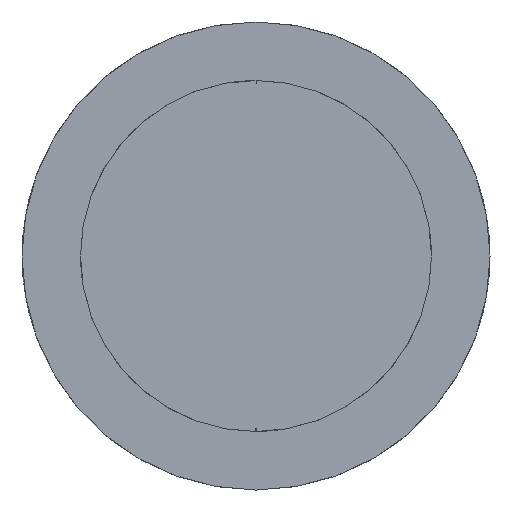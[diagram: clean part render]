
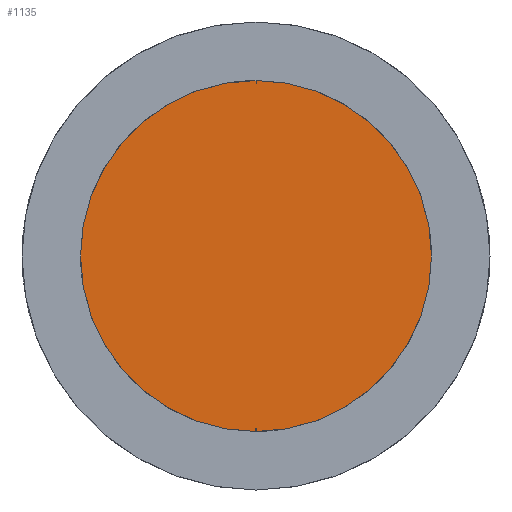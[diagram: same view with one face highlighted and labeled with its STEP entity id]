
A CAD part, left-side view. The second image highlights one B-rep face of the part: STEP entity #1135.
In plain terms, the highlighted planar face has unit normal (-1, 0, 0).
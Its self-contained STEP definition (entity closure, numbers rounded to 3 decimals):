
#1067=CARTESIAN_POINT('Vertex',(0.,0.,3.)) ;
#1074=CARTESIAN_POINT('Vertex',(0.,0.,-3.)) ;
#1077=CARTESIAN_POINT('Axis2P3D Location',(0.,0.,0.)) ;
#1081=CARTESIAN_POINT('Vertex',(0.,3.,0.)) ;
#1084=CARTESIAN_POINT('Axis2P3D Location',(0.,0.,0.)) ;
#1103=CARTESIAN_POINT('Axis2P3D Location',(0.,0.,0.)) ;
#1107=CARTESIAN_POINT('Vertex',(0.,-3.,0.)) ;
#1110=CARTESIAN_POINT('Axis2P3D Location',(0.,0.,0.)) ;
#1124=CARTESIAN_POINT('Axis2P3D Location',(0.,0.,0.)) ;
#1078=DIRECTION('Axis2P3D Direction',(-1.,0.,0.)) ;
#1085=DIRECTION('Axis2P3D Direction',(-1.,0.,0.)) ;
#1104=DIRECTION('Axis2P3D Direction',(-1.,0.,0.)) ;
#1111=DIRECTION('Axis2P3D Direction',(-1.,0.,0.)) ;
#1125=DIRECTION('Axis2P3D Direction',(1.,0.,-0.)) ;
#1126=DIRECTION('Axis2P3D XDirection',(-0.,0.,-1.)) ;
#1079=AXIS2_PLACEMENT_3D('Circle Axis2P3D',#1077,#1078,$) ;
#1086=AXIS2_PLACEMENT_3D('Circle Axis2P3D',#1084,#1085,$) ;
#1105=AXIS2_PLACEMENT_3D('Circle Axis2P3D',#1103,#1104,$) ;
#1112=AXIS2_PLACEMENT_3D('Circle Axis2P3D',#1110,#1111,$) ;
#1127=AXIS2_PLACEMENT_3D('Plane Axis2P3D',#1124,#1125,#1126) ;
#1130=ORIENTED_EDGE('',*,*,#1083,.F.) ;
#1131=ORIENTED_EDGE('',*,*,#1114,.F.) ;
#1132=ORIENTED_EDGE('',*,*,#1109,.F.) ;
#1133=ORIENTED_EDGE('',*,*,#1088,.F.) ;
#1135=ADVANCED_FACE('CF-VPA8',(#1134),#1128,.F.) ;
#1080=CIRCLE('generated circle',#1079,3.) ;
#1087=CIRCLE('generated circle',#1086,3.) ;
#1106=CIRCLE('generated circle',#1105,3.) ;
#1113=CIRCLE('generated circle',#1112,3.) ;
#1083=EDGE_CURVE('',#1075,#1082,#1080,.F.) ;
#1088=EDGE_CURVE('',#1082,#1068,#1087,.F.) ;
#1109=EDGE_CURVE('',#1068,#1108,#1106,.F.) ;
#1114=EDGE_CURVE('',#1108,#1075,#1113,.F.) ;
#1129=EDGE_LOOP('',(#1130,#1131,#1132,#1133)) ;
#1134=FACE_OUTER_BOUND('',#1129,.T.) ;
#1128=PLANE('Plane',#1127) ;
#1068=VERTEX_POINT('',#1067) ;
#1075=VERTEX_POINT('',#1074) ;
#1082=VERTEX_POINT('',#1081) ;
#1108=VERTEX_POINT('',#1107) ;
